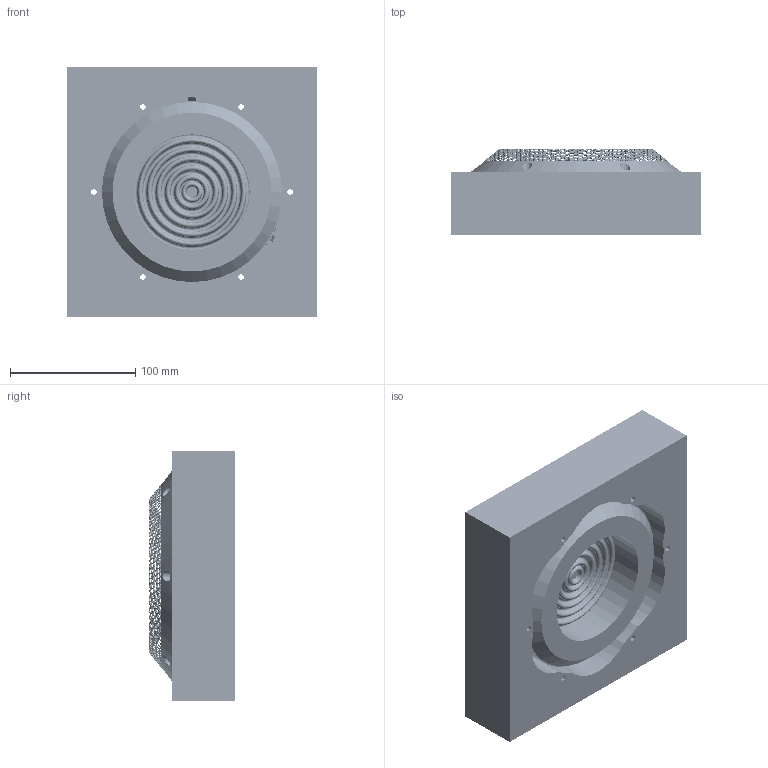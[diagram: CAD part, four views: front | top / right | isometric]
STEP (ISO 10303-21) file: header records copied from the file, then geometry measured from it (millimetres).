
FILE_DESCRIPTION (( 'STEP AP214' ), '1' );
FILE_NAME ('C168-06-990 mit Gitter.STEP', '2020-03-11T09:11:42', ( '' ), ( '' ), 'SwSTEP 2.0', 'SolidWorks 2015', '' );
FILE_SCHEMA (( 'AUTOMOTIVE_DESIGN' ));
Length unit declared in the file: millimetre
Products named in the file (14): TRM2_Standard; MGS_Standard; KRB_Standard; GIT C168-990_Standard; VC_Standard; TRM1_Standard; CM_Standard; KLT3_Standard; KLT1_Standard; ZEN_Standard; GHS_Standard; KLT2_Standard; GUS_Standard; C168-06-990 mit Gitter
Assembly tree (14 placements, depth 3):
  C168-06-990 mit Gitter
    KRB_Standard
    GIT C168-990_Standard
    CM_Standard
    VC_Standard
    GUS_Standard
    ZEN_Standard
    TRM1_Standard
      KLT3_Standard
      KLT1_Standard
    TRM2_Standard
      KLT2_Standard
      KLT3_Standard
    GHS_Standard
    MGS_Standard
Bounding box: 200 x 68.42 x 200 mm (x, y, z)
Volume: 1386323.1 mm3; surface area: 295546.9 mm2
Topology: 12 solids, 12 shells, 8730 faces, 26974 edges, 17840 vertices
Faces by surface type: plane 7458, cylinder 627, torus 520, bspline 84, cone 29, sphere 12
Entity records: 329580 total; most frequent: CARTESIAN_POINT 85089, ORIENTED_EDGE 53900, DIRECTION 50092, EDGE_CURVE 26950, AXIS2_PLACEMENT_3D 20719, VERTEX_POINT 17828, CIRCLE 12062, EDGE_LOOP 10692
